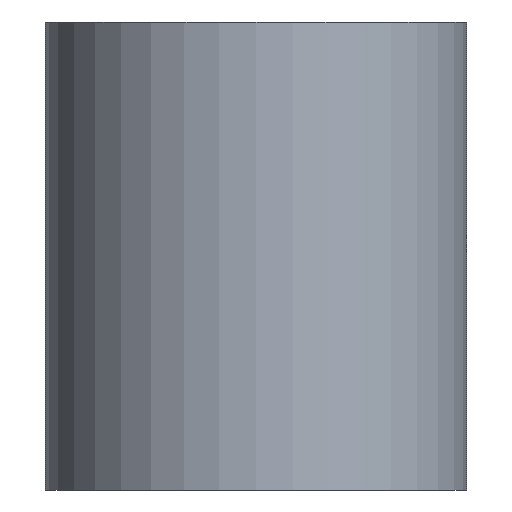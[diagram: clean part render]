
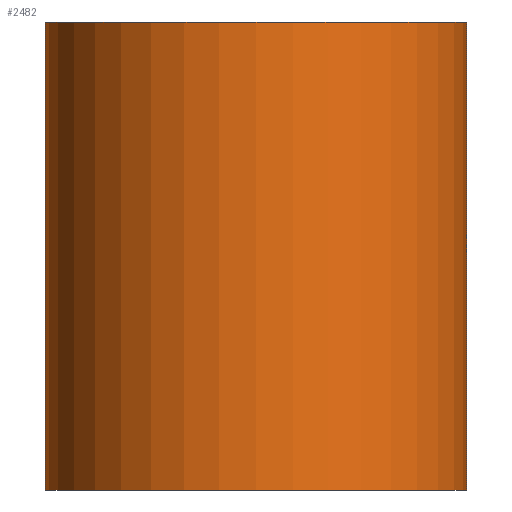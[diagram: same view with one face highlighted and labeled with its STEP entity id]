
A CAD part, left-side view. The second image highlights one B-rep face of the part: STEP entity #2482.
In plain terms, the highlighted cylindrical face has radius 3.6 mm (diameter 7.2 mm), a partial arc.
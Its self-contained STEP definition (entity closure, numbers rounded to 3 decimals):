
#211=LINE('',#4357,#363);
#213=LINE('',#4362,#365);
#363=VECTOR('',#3607,1000.);
#365=VECTOR('',#3613,1000.);
#941=ORIENTED_EDGE('',*,*,#1378,.T.);
#942=ORIENTED_EDGE('',*,*,#1379,.F.);
#943=ORIENTED_EDGE('',*,*,#1336,.F.);
#944=ORIENTED_EDGE('',*,*,#1376,.T.);
#1336=EDGE_CURVE('',#1590,#1587,#1786,.T.);
#1376=EDGE_CURVE('',#1590,#1630,#211,.T.);
#1378=EDGE_CURVE('',#1630,#1631,#1823,.T.);
#1379=EDGE_CURVE('',#1587,#1631,#213,.T.);
#1587=VERTEX_POINT('',#4240);
#1590=VERTEX_POINT('',#4245);
#1630=VERTEX_POINT('',#4356);
#1631=VERTEX_POINT('',#4361);
#1786=CIRCLE('',#2753,3.6);
#1823=CIRCLE('',#2822,3.6);
#2010=EDGE_LOOP('',(#941,#942,#943,#944));
#2220=FACE_BOUND('',#2010,.T.);
#2340=CYLINDRICAL_SURFACE('',#2821,3.6);
#2482=ADVANCED_FACE('',(#2220),#2340,.T.);
#2753=AXIS2_PLACEMENT_3D('',#4246,#3468,#3469);
#2821=AXIS2_PLACEMENT_3D('',#4359,#3609,#3610);
#2822=AXIS2_PLACEMENT_3D('',#4360,#3611,#3612);
#3468=DIRECTION('',(0.,0.,1.));
#3469=DIRECTION('',(1.,0.,0.));
#3607=DIRECTION('',(0.,0.,-1.));
#3609=DIRECTION('',(0.,0.,-1.));
#3610=DIRECTION('',(-1.,0.,0.));
#3611=DIRECTION('',(0.,0.,1.));
#3612=DIRECTION('',(1.,0.,0.));
#3613=DIRECTION('',(0.,0.,-1.));
#4240=CARTESIAN_POINT('',(-24.,-3.6,8.));
#4245=CARTESIAN_POINT('',(-24.,3.6,8.));
#4246=CARTESIAN_POINT('',(-24.,0.,8.));
#4356=CARTESIAN_POINT('',(-24.,3.6,0.));
#4357=CARTESIAN_POINT('',(-24.,3.6,8.));
#4359=CARTESIAN_POINT('',(-24.,0.,8.));
#4360=CARTESIAN_POINT('',(-24.,0.,0.));
#4361=CARTESIAN_POINT('',(-24.,-3.6,0.));
#4362=CARTESIAN_POINT('',(-24.,-3.6,8.));
